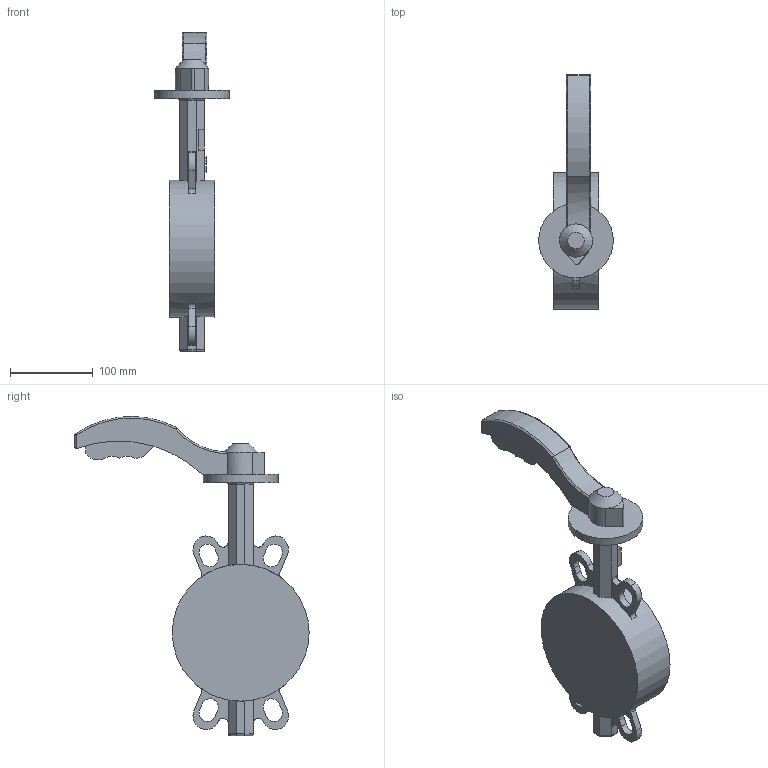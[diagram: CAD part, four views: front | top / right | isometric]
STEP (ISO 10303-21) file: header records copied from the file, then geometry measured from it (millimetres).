
FILE_DESCRIPTION(/* description */ (''),/* implementation_level */ '2;1');
FILE_NAME(/* name */ 'DN125-.stp',/* time_stamp */ '2026-08-17T09:37:11+08:00',/* author */ (''),/* organization */ (''),/* preprocessor_version */ 'ST-DEVELOPER v16.7',/* originating_system */ 'SIEMENS PLM Software NX 12.0',/* authorisation */ '');
FILE_SCHEMA (('AUTOMOTIVE_DESIGN { 1 0 10303 214 3 1 1 1 }'));
Length unit declared in the file: millimetre
Products named in the file (2): 4-6寸手柄; DN125
Assembly tree (1 placements, depth 2):
  DN125
    4-6寸手柄
Bounding box: 90 x 282.5 x 384.91 mm (x, y, z)
Volume: 1603772.4 mm3; surface area: 146154.2 mm2
Topology: 8 solids, 8 shells, 215 faces, 562 edges, 366 vertices
Faces by surface type: plane 104, cylinder 57, extrusion 47, torus 4, sphere 2, cone 1
Full cylindrical faces by diameter (mm): 90 x1, 165 x1
Entity records: 6923 total; most frequent: CARTESIAN_POINT 1629, ORIENTED_EDGE 1116, DIRECTION 972, EDGE_CURVE 558, VECTOR 378, VERTEX_POINT 365, LINE 331, AXIS2_PLACEMENT_3D 297
